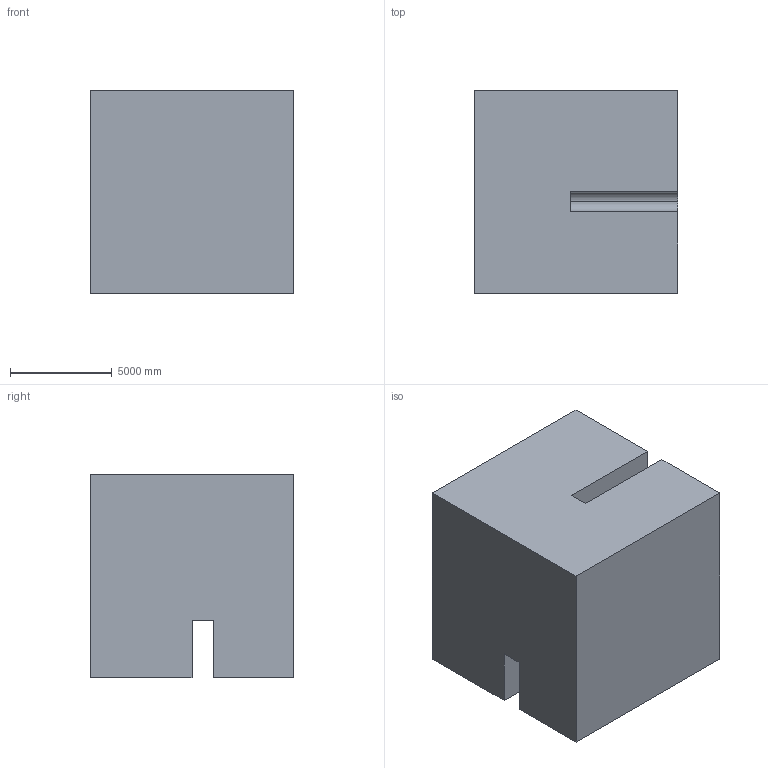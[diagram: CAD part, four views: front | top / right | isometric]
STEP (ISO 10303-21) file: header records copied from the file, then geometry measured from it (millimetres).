
FILE_DESCRIPTION (( 'STEP AP203' ), '1' );
FILE_NAME ('1147.STEP', '2022-08-18T12:56:47', ( 'user' ), ( '' ), 'SwSTEP 2.0', 'SolidWorks 2021', '' );
FILE_SCHEMA (( 'CONFIG_CONTROL_DESIGN' ));
Length unit declared in the file: centimetre
Products named in the file (1): 1147
Bounding box: 10000 x 10000 x 10000 mm (x, y, z)
Volume: 952194857784.4 mm3; surface area: 687225192.6 mm2
Topology: 1 solids, 1 shells, 15 faces, 39 edges, 26 vertices
Faces by surface type: plane 13, cylinder 2
Entity records: 534 total; most frequent: CARTESIAN_POINT 81, ORIENTED_EDGE 78, DIRECTION 75, EDGE_CURVE 39, LINE 35, VECTOR 35, VERTEX_POINT 26, AXIS2_PLACEMENT_3D 20
